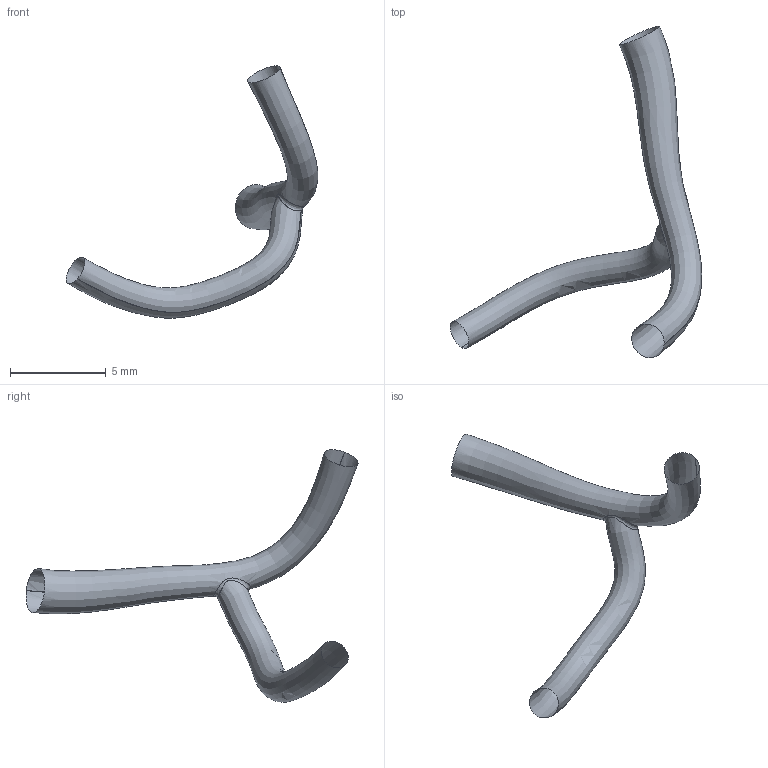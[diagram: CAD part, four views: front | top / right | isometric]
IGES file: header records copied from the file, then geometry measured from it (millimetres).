
Global section: file name: C:\Documents and Settings\Administrator\Desktop\FDA Bifurcation win\RawData_for_IGES\HRCA_Data\20000607.162451\IGES\20000607.162451.RM1.BIFUR.ES.igs; native system: Rhinoceros ( May 19 2006 ); preprocessor: Trout Lake IGES 012 May 19 2006; date: 100728.201355; units: centimetre
Bounding box: 13.18 x 17.38 x 13.21 mm (x, y, z)
Surface area: 190.1 mm2 (no closed solid volume)
Topology: 0 solids, 0 shells, 3 faces, 42 edges, 37 vertices
Faces by surface type: bspline 3
